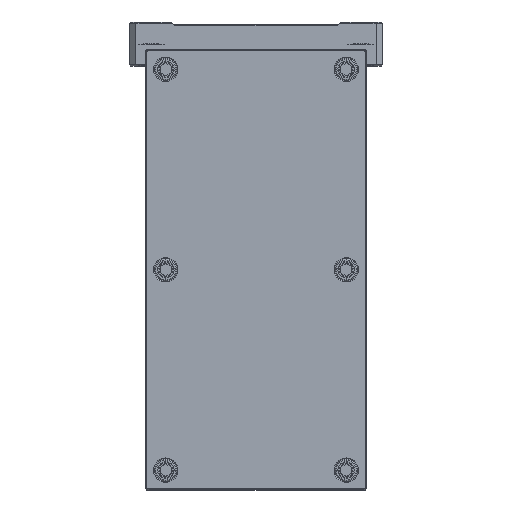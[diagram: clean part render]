
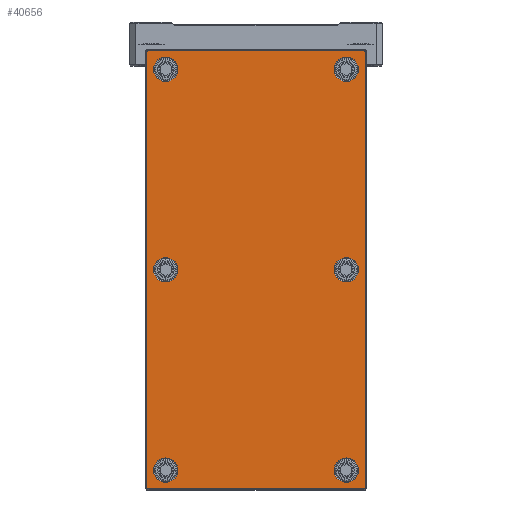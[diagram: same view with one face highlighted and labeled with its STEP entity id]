
A CAD part, front view. The second image highlights one B-rep face of the part: STEP entity #40656.
In plain terms, the highlighted planar face has unit normal (0, -1, 0).
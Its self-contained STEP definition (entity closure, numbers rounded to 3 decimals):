
#39273=CARTESIAN_POINT('',(99.,-7.,-49.));
#39274=DIRECTION('',(0.,-1.,0.));
#39275=DIRECTION('',(0.,0.,-1.));
#39276=AXIS2_PLACEMENT_3D('',#39273,#39274,#39275);
#39278=DIRECTION('',(1.,0.,0.));
#39279=VECTOR('',#39278,198.);
#39280=CARTESIAN_POINT('',(-99.,-7.,
-49.5));
#39281=LINE('',#39280,#39279);
#39282=CARTESIAN_POINT('',(-99.,-7.,-49.));
#39283=DIRECTION('',(0.,-1.,0.));
#39284=DIRECTION('',(-1.,0.,0.));
#39285=AXIS2_PLACEMENT_3D('',#39282,#39283,#39284);
#39287=DIRECTION('',(0.,0.,-1.));
#39288=VECTOR('',#39287,98.);
#39289=CARTESIAN_POINT('',(-99.5,-7.,
49.));
#39290=LINE('',#39289,#39288);
#39291=CARTESIAN_POINT('',(-99.,-7.,49.));
#39292=DIRECTION('',(0.,-1.,0.));
#39293=DIRECTION('',(0.,0.,1.));
#39294=AXIS2_PLACEMENT_3D('',#39291,#39292,#39293);
#39296=DIRECTION('',(-1.,0.,0.));
#39297=VECTOR('',#39296,198.);
#39298=CARTESIAN_POINT('',(99.,-7.,
49.5));
#39299=LINE('',#39298,#39297);
#39300=CARTESIAN_POINT('',(99.,-7.,49.));
#39301=DIRECTION('',(0.,-1.,0.));
#39302=DIRECTION('',(1.,0.,0.));
#39303=AXIS2_PLACEMENT_3D('',#39300,#39301,#39302);
#39305=DIRECTION('',(0.,0.,1.));
#39306=VECTOR('',#39305,98.);
#39307=CARTESIAN_POINT('',(99.5,-7.,
-49.));
#39308=LINE('',#39307,#39306);
#39309=CARTESIAN_POINT('',(-91.,-7.,-41.));
#39310=DIRECTION('',(0.,1.,0.));
#39311=DIRECTION('',(1.,0.,0.));
#39312=AXIS2_PLACEMENT_3D('',#39309,#39310,#39311);
#39314=CARTESIAN_POINT('',(-91.,-7.,-41.));
#39315=DIRECTION('',(0.,1.,0.));
#39316=DIRECTION('',(-1.,0.,0.));
#39317=AXIS2_PLACEMENT_3D('',#39314,#39315,#39316);
#39319=CARTESIAN_POINT('',(0.,-7.,-41.));
#39320=DIRECTION('',(0.,1.,0.));
#39321=DIRECTION('',(1.,0.,0.));
#39322=AXIS2_PLACEMENT_3D('',#39319,#39320,#39321);
#39324=CARTESIAN_POINT('',(0.,-7.,-41.));
#39325=DIRECTION('',(0.,1.,0.));
#39326=DIRECTION('',(-1.,0.,0.));
#39327=AXIS2_PLACEMENT_3D('',#39324,#39325,#39326);
#39329=CARTESIAN_POINT('',(91.,-7.,-41.));
#39330=DIRECTION('',(0.,1.,0.));
#39331=DIRECTION('',(1.,0.,0.));
#39332=AXIS2_PLACEMENT_3D('',#39329,#39330,#39331);
#39334=CARTESIAN_POINT('',(91.,-7.,-41.));
#39335=DIRECTION('',(0.,1.,0.));
#39336=DIRECTION('',(-1.,0.,0.));
#39337=AXIS2_PLACEMENT_3D('',#39334,#39335,#39336);
#39339=CARTESIAN_POINT('',(91.,-7.,41.));
#39340=DIRECTION('',(0.,1.,0.));
#39341=DIRECTION('',(1.,0.,0.));
#39342=AXIS2_PLACEMENT_3D('',#39339,#39340,#39341);
#39344=CARTESIAN_POINT('',(91.,-7.,41.));
#39345=DIRECTION('',(0.,1.,0.));
#39346=DIRECTION('',(-1.,0.,0.));
#39347=AXIS2_PLACEMENT_3D('',#39344,#39345,#39346);
#39349=CARTESIAN_POINT('',(0.,-7.,41.));
#39350=DIRECTION('',(0.,1.,0.));
#39351=DIRECTION('',(1.,0.,0.));
#39352=AXIS2_PLACEMENT_3D('',#39349,#39350,#39351);
#39354=CARTESIAN_POINT('',(0.,-7.,41.));
#39355=DIRECTION('',(0.,1.,0.));
#39356=DIRECTION('',(-1.,0.,0.));
#39357=AXIS2_PLACEMENT_3D('',#39354,#39355,#39356);
#39359=CARTESIAN_POINT('',(-91.,-7.,41.));
#39360=DIRECTION('',(0.,1.,0.));
#39361=DIRECTION('',(1.,0.,0.));
#39362=AXIS2_PLACEMENT_3D('',#39359,#39360,#39361);
#39364=CARTESIAN_POINT('',(-91.,-7.,41.));
#39365=DIRECTION('',(0.,1.,0.));
#39366=DIRECTION('',(-1.,0.,0.));
#39367=AXIS2_PLACEMENT_3D('',#39364,#39365,#39366);
#40397=CARTESIAN_POINT('',(99.,-7.,-49.5));
#40398=CARTESIAN_POINT('',(99.5,-7.,-49.));
#40399=VERTEX_POINT('',#40397);
#40400=VERTEX_POINT('',#40398);
#40405=CARTESIAN_POINT('',(99.5,-7.,
49.));
#40406=VERTEX_POINT('',#40405);
#40409=CARTESIAN_POINT('',(99.,-7.,49.5));
#40410=VERTEX_POINT('',#40409);
#40413=CARTESIAN_POINT('',(-99.,-7.,
49.5));
#40414=VERTEX_POINT('',#40413);
#40417=CARTESIAN_POINT('',(-99.5,-7.,49.));
#40418=VERTEX_POINT('',#40417);
#40421=CARTESIAN_POINT('',(-99.5,-7.,
-49.));
#40422=VERTEX_POINT('',#40421);
#40425=CARTESIAN_POINT('',(-99.,-7.,-49.5));
#40426=VERTEX_POINT('',#40425);
#40453=CARTESIAN_POINT('',(-85.45,-7.,-41.));
#40454=CARTESIAN_POINT('',(-96.55,-7.,-41.));
#40455=VERTEX_POINT('',#40453);
#40456=VERTEX_POINT('',#40454);
#40469=CARTESIAN_POINT('',(5.55,-7.,-41.));
#40470=CARTESIAN_POINT('',(-5.55,-7.,-41.));
#40471=VERTEX_POINT('',#40469);
#40472=VERTEX_POINT('',#40470);
#40493=CARTESIAN_POINT('',(96.55,-7.,-41.));
#40494=CARTESIAN_POINT('',(85.45,-7.,-41.));
#40495=VERTEX_POINT('',#40493);
#40496=VERTEX_POINT('',#40494);
#40509=CARTESIAN_POINT('',(96.55,-7.,41.));
#40510=CARTESIAN_POINT('',(85.45,-7.,41.));
#40511=VERTEX_POINT('',#40509);
#40512=VERTEX_POINT('',#40510);
#40517=CARTESIAN_POINT('',(5.55,-7.,41.));
#40518=CARTESIAN_POINT('',(-5.55,-7.,41.));
#40519=VERTEX_POINT('',#40517);
#40520=VERTEX_POINT('',#40518);
#40541=CARTESIAN_POINT('',(-85.45,-7.,41.));
#40542=CARTESIAN_POINT('',(-96.55,-7.,41.));
#40543=VERTEX_POINT('',#40541);
#40544=VERTEX_POINT('',#40542);
#40597=CARTESIAN_POINT('',(0.,-7.,0.));
#40598=DIRECTION('',(0.,1.,0.));
#40599=DIRECTION('',(1.,0.,0.));
#40600=AXIS2_PLACEMENT_3D('',#40597,#40598,#40599);
#40601=PLANE('',#40600);
#40603=ORIENTED_EDGE('',*,*,#40602,.F.);
#40605=ORIENTED_EDGE('',*,*,#40604,.F.);
#40607=ORIENTED_EDGE('',*,*,#40606,.F.);
#40609=ORIENTED_EDGE('',*,*,#40608,.F.);
#40611=ORIENTED_EDGE('',*,*,#40610,.F.);
#40613=ORIENTED_EDGE('',*,*,#40612,.F.);
#40615=ORIENTED_EDGE('',*,*,#40614,.F.);
#40617=ORIENTED_EDGE('',*,*,#40616,.F.);
#40618=EDGE_LOOP('',(#40603,#40605,#40607,#40609,#40611,#40613,#40615,#40617));
#40619=FACE_OUTER_BOUND('',#40618,.F.);
#40621=ORIENTED_EDGE('',*,*,#40620,.F.);
#40623=ORIENTED_EDGE('',*,*,#40622,.F.);
#40624=EDGE_LOOP('',(#40621,#40623));
#40625=FACE_BOUND('',#40624,.F.);
#40627=ORIENTED_EDGE('',*,*,#40626,.F.);
#40629=ORIENTED_EDGE('',*,*,#40628,.F.);
#40630=EDGE_LOOP('',(#40627,#40629));
#40631=FACE_BOUND('',#40630,.F.);
#40633=ORIENTED_EDGE('',*,*,#40632,.F.);
#40635=ORIENTED_EDGE('',*,*,#40634,.F.);
#40636=EDGE_LOOP('',(#40633,#40635));
#40637=FACE_BOUND('',#40636,.F.);
#40639=ORIENTED_EDGE('',*,*,#40638,.F.);
#40641=ORIENTED_EDGE('',*,*,#40640,.F.);
#40642=EDGE_LOOP('',(#40639,#40641));
#40643=FACE_BOUND('',#40642,.F.);
#40645=ORIENTED_EDGE('',*,*,#40644,.F.);
#40647=ORIENTED_EDGE('',*,*,#40646,.F.);
#40648=EDGE_LOOP('',(#40645,#40647));
#40649=FACE_BOUND('',#40648,.F.);
#40651=ORIENTED_EDGE('',*,*,#40650,.F.);
#40653=ORIENTED_EDGE('',*,*,#40652,.F.);
#40654=EDGE_LOOP('',(#40651,#40653));
#40655=FACE_BOUND('',#40654,.F.);
#40656=ADVANCED_FACE('',(#40619,#40625,#40631,#40637,#40643,#40649,#40655),
#40601,.F.);
#39277=CIRCLE('',#39276,0.5);
#39286=CIRCLE('',#39285,0.5);
#39295=CIRCLE('',#39294,0.5);
#39304=CIRCLE('',#39303,0.5);
#39313=CIRCLE('',#39312,5.55);
#39318=CIRCLE('',#39317,5.55);
#39323=CIRCLE('',#39322,5.55);
#39328=CIRCLE('',#39327,5.55);
#39333=CIRCLE('',#39332,5.55);
#39338=CIRCLE('',#39337,5.55);
#39343=CIRCLE('',#39342,5.55);
#39348=CIRCLE('',#39347,5.55);
#39353=CIRCLE('',#39352,5.55);
#39358=CIRCLE('',#39357,5.55);
#39363=CIRCLE('',#39362,5.55);
#39368=CIRCLE('',#39367,5.55);
#40602=EDGE_CURVE('',#40399,#40400,#39277,.T.);
#40604=EDGE_CURVE('',#40426,#40399,#39281,.T.);
#40606=EDGE_CURVE('',#40422,#40426,#39286,.T.);
#40608=EDGE_CURVE('',#40418,#40422,#39290,.T.);
#40610=EDGE_CURVE('',#40414,#40418,#39295,.T.);
#40612=EDGE_CURVE('',#40410,#40414,#39299,.T.);
#40614=EDGE_CURVE('',#40406,#40410,#39304,.T.);
#40616=EDGE_CURVE('',#40400,#40406,#39308,.T.);
#40620=EDGE_CURVE('',#40455,#40456,#39313,.T.);
#40622=EDGE_CURVE('',#40456,#40455,#39318,.T.);
#40626=EDGE_CURVE('',#40471,#40472,#39323,.T.);
#40628=EDGE_CURVE('',#40472,#40471,#39328,.T.);
#40632=EDGE_CURVE('',#40495,#40496,#39333,.T.);
#40634=EDGE_CURVE('',#40496,#40495,#39338,.T.);
#40638=EDGE_CURVE('',#40511,#40512,#39343,.T.);
#40640=EDGE_CURVE('',#40512,#40511,#39348,.T.);
#40644=EDGE_CURVE('',#40519,#40520,#39353,.T.);
#40646=EDGE_CURVE('',#40520,#40519,#39358,.T.);
#40650=EDGE_CURVE('',#40543,#40544,#39363,.T.);
#40652=EDGE_CURVE('',#40544,#40543,#39368,.T.);
